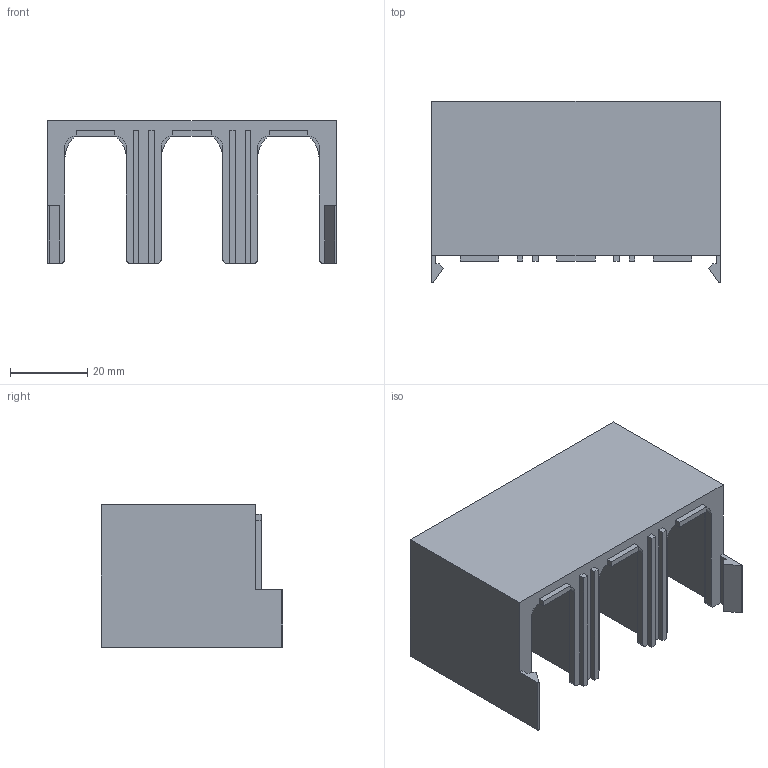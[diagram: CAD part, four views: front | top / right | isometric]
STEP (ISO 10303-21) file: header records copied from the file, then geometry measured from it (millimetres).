
FILE_DESCRIPTION (( 'STEP AP203' ), '1' );
FILE_NAME ('Êðûøêà êëåììíàÿ 57-31.STEP', '2014-06-19T06:21:14', ( 'admin' ), ( 'Microsoft' ), 'SwSTEP 2.0', 'SolidWorks 2007', '' );
FILE_SCHEMA (( 'CONFIG_CONTROL_DESIGN' ));
Length unit declared in the file: millimetre
Products named in the file (1): Êðûøêà êëåììíàÿ 57-31
Bounding box: 74.8 x 47.08 x 37 mm (x, y, z)
Volume: 21567.9 mm3; surface area: 21888.2 mm2
Topology: 1 solids, 1 shells, 118 faces, 336 edges, 220 vertices
Faces by surface type: plane 80, cylinder 38
Entity records: 3917 total; most frequent: CARTESIAN_POINT 703, ORIENTED_EDGE 672, DIRECTION 646, EDGE_CURVE 336, LINE 256, VECTOR 256, VERTEX_POINT 220, AXIS2_PLACEMENT_3D 195
